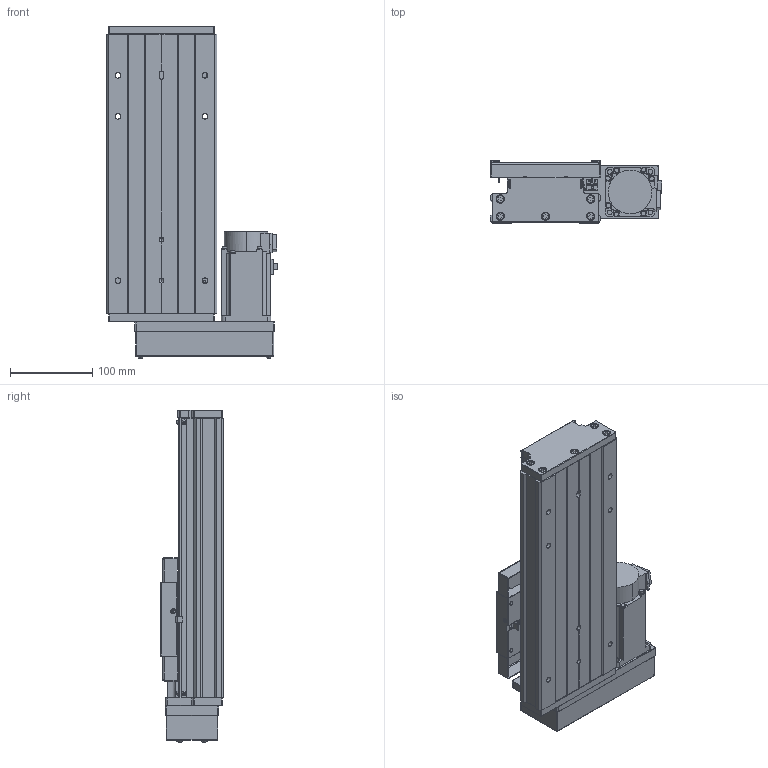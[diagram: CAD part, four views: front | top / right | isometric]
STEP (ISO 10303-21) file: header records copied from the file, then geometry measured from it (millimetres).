
FILE_DESCRIPTION (( 'STEP AP203' ), '1' );
FILE_NAME ('CTH130-150-BR-M40-C4.step', '2023-06-30T02:50:50', ( '微软用户' ), ( '微软中国' ), 'SwSTEP 2.0', 'SolidWorks 2020', '' );
FILE_SCHEMA (( 'CONFIG_CONTROL_DESIGN' ));
Length unit declared in the file: millimetre
Products named in the file (20): GB1155-6X6; CTH130-031; CTH130-150-BR-M40-C4; GBT70.1 M5℅16; GBT 70.2-M3¡Á5_M3¡Á6; GTH14-001_150; CTHA60-017; す晦芛蹟隊 M3℅5; CTH130-002_GTH14-002; EE_SX911P_R; HG-KN43J-S100; GB T308.1-2013-6.35; CTHA60-016; GBT 70.2-M4¡Á35_M4¡Á35; GTH14-004; GBT 70.1-M3℅5; GTH14-015-2_CTHA86-015-2; GTH14-005; GBT77-2000 M3×3; GTH14-033
Assembly tree (60 placements, depth 2):
  CTH130-150-BR-M40-C4
    GTH14-001_150
    CTH130-002_GTH14-002
    GB T308.1-2013-6.35  x2
    GTH14-004
    GTH14-005
    GB1155-6X6  x2
    GBT70.1 M5℅16  x10
    CTHA60-017  x3
    EE_SX911P_R  x3
    CTHA60-016  x2
    GBT 70.1-M3℅5  x6
    GBT77-2000 M3×3  x6
    CTH130-031
    GBT 70.2-M3¡Á5_M3¡Á6  x8
    す晦芛蹟隊 M3℅5  x6
    HG-KN43J-S100
    GBT 70.2-M4¡Á35_M4¡Á35  x4
    GTH14-015-2_CTHA86-015-2
    GTH14-033
Bounding box: 209.3 x 76 x 404.2 mm (x, y, z)
Volume: 2468205 mm3; surface area: 495559.6 mm2
Topology: 63 solids, 63 shells, 2415 faces, 5749 edges, 3553 vertices
Faces by surface type: plane 1306, cylinder 630, cone 299, torus 124, sphere 36, bspline 20
Entity records: 43308 total; most frequent: CARTESIAN_POINT 9747, DIRECTION 6282, ORIENTED_EDGE 6204, EDGE_CURVE 3102, AXIS2_PLACEMENT_3D 2132, LINE 2018, VECTOR 2018, VERTEX_POINT 1963
